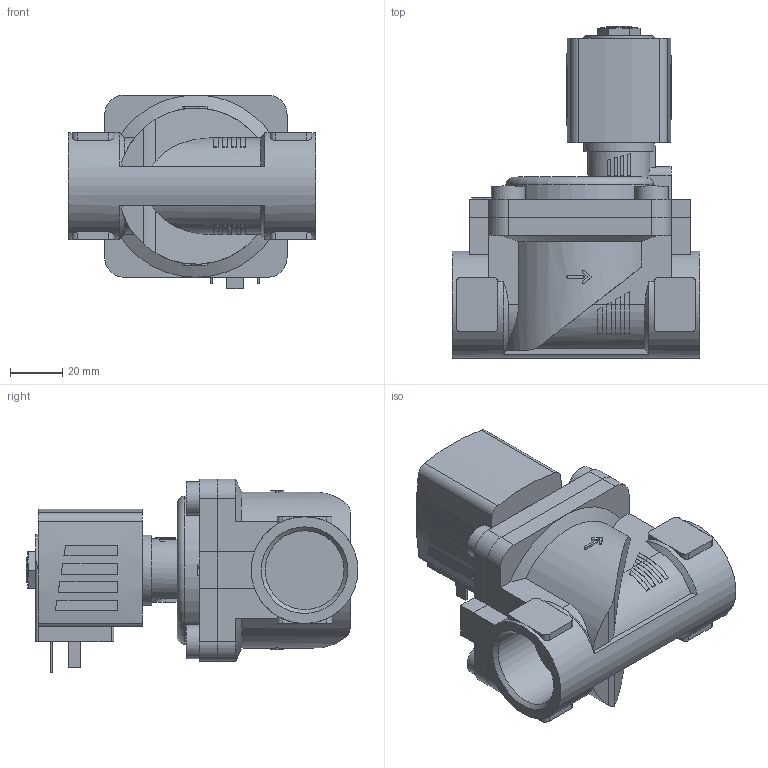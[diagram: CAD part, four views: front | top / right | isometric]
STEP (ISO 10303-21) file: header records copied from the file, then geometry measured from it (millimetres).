
FILE_DESCRIPTION(/* description */ ('STEP AP214'),/* implementation_level */ '2;1');
FILE_NAME(/* name */ '6281-302794-2_2-Way_Solenoid_Valve__Servo-assisted__General_Purpose',/* time_stamp */ '2024-08-27T14:17:52+02:00',/* author */ ('License CC BY-ND 4.0'),/* organization */ ('CADENAS'),/* preprocessor_version */ 'ST-DEVELOPER v19.3',/* originating_system */ 'PARTsolutions',/* authorisation */ ' ');
FILE_SCHEMA (('AUTOMOTIVE_DESIGN {1 0 10303 214 3 1 1}'));
Length unit declared in the file: millimetre
Products named in the file (4): 6281-302794-2/2-Way Solenoid Valve, Servo-assisted, General Purpose; 5281ev250VA2/2-Wege-Magnetventil mit Servomembran-Deckel   ; 6213-25G1VA-Gehaeuse-; AC10ex-6NA38-Plan-Coil
Assembly tree (3 placements, depth 2):
  6281-302794-2/2-Way Solenoid Valve, Servo-assisted, General Purpose
    5281ev250VA2/2-Wege-Magnetventil mit Servomembran-Deckel   
    6213-25G1VA-Gehaeuse-
    AC10ex-6NA38-Plan-Coil
Bounding box: 95 x 127.5 x 74.5 mm (x, y, z)
Volume: 318559.3 mm3; surface area: 56171.8 mm2
Topology: 3 solids, 3 shells, 345 faces, 898 edges, 592 vertices
Faces by surface type: plane 240, cylinder 89, cone 15, torus 1
Full cylindrical faces by diameter (mm): 2.013 x1, 9.74 x1, 13 x4, 27 x1, 30.291 x2, 41 x1
Entity records: 11804 total; most frequent: CARTESIAN_POINT 2076, ORIENTED_EDGE 1748, DIRECTION 1744, EDGE_CURVE 874, AXIS2_PLACEMENT_3D 594, VERTEX_POINT 584, LINE 556, VECTOR 556
